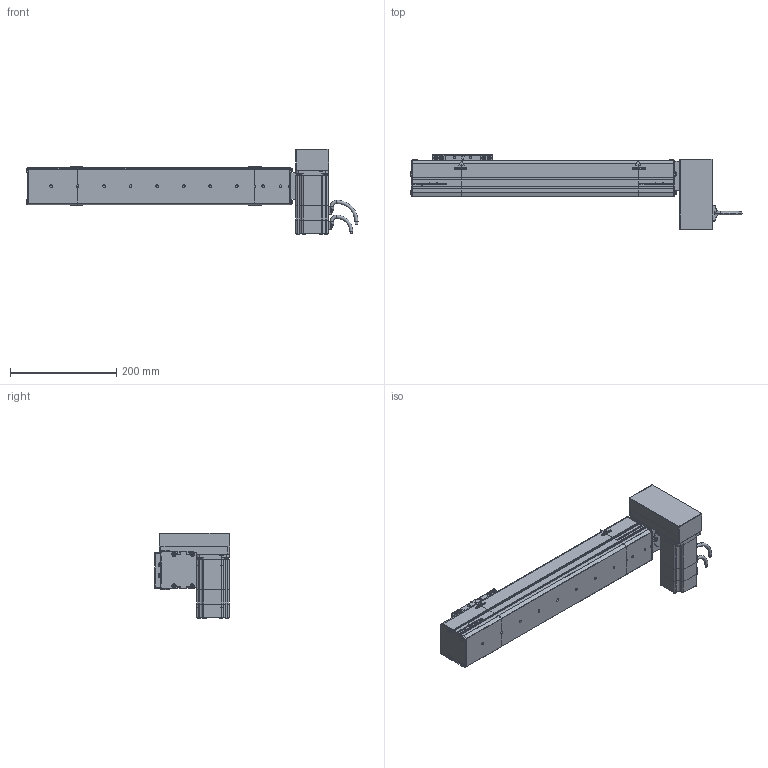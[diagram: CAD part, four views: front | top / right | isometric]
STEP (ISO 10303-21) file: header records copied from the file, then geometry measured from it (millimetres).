
FILE_DESCRIPTION (( 'STEP AP214' ), '1' );
FILE_NAME ('S07 CBN LU S400.STEP', '2010-06-29T09:29:52', ( 'Conseil Régional Haute-Normandie' ), ( 'Conseil Régional Haute-Normandie' ), 'SwSTEP 2.0', 'SolidWorks 2010', '' );
FILE_SCHEMA (( 'AUTOMOTIVE_DESIGN' ));
Length unit declared in the file: millimetre
Products named in the file (31): Corp LU_Default; Couvercle Tail_Default; Corp Tail_Default; Plaque de bout LU_Default; Plaque de bout Tail_Default; Tail S07 Tail_Default; Cache Support Moteur LU_Default; plaque de serrage LU_Default; Couvercle S07 S400_Default; Corp S07 S400_Default; Couvercle LU_Default; Conecteur2 60BLDC_Default; Support Moteur LU_Default; Rondelle de Serrage LU_Default; VisM3_Default; 60BLDC90A-640_Default; Conecteur 60BLDC_Default; plaque de serrage Tail_Default; Axe 60BLDC_Default; P4_Default; P1_Default; P3 90A_Default; P2 90A_Default; vis M5 L8_Default; chariot_Default; Chariot S07_Default; support chariot_Default; vis M5 L15_Default; S07 CBN LU S400; Head LU_Default
Assembly tree (71 placements, depth 4):
  S07 CBN LU S400
    Tail S07 Tail_Default
      Plaque de bout Tail_Default
      vis M5 L15_Default  x6
      plaque de serrage Tail_Default
      Couvercle Tail_Default
      Corp Tail_Default
    Head LU_Default
      vis M5 L15_Default  x16
      60BLDC90A-640_Default
        VisM3_Default  x12
        P1_Default
        Conecteur2 60BLDC_Default
        Conecteur 60BLDC_Default
        Axe 60BLDC_Default
        P4_Default
        P2 90A_Default
        P3 90A_Default
      plaque de serrage LU_Default
      Corp LU_Default
      Couvercle LU_Default
      Cache Support Moteur LU_Default
      Support Moteur LU_Default
      Rondelle de Serrage LU_Default  x3
      Plaque de bout LU_Default
    Corp S07 S400_Default
      Couvercle S07 S400_Default
      Corp S07 S400_Default
    Chariot S07_Default
      vis M5 L8_Default  x8
      chariot_Default
      support chariot_Default
Bounding box: 625.7 x 142 x 162 mm (x, y, z)
Volume: 3336233.7 mm3; surface area: 507748.3 mm2
Topology: 108 solids, 108 shells, 3874 faces, 9554 edges, 6148 vertices
Faces by surface type: plane 2244, bspline 756, cylinder 663, torus 112, cone 95, sphere 4
Entity records: 152873 total; most frequent: CARTESIAN_POINT 79513, ORIENTED_EDGE 14628, DIRECTION 10867, EDGE_CURVE 7314, VERTEX_POINT 4833, VECTOR 4761, LINE 4761, EDGE_LOOP 3125
